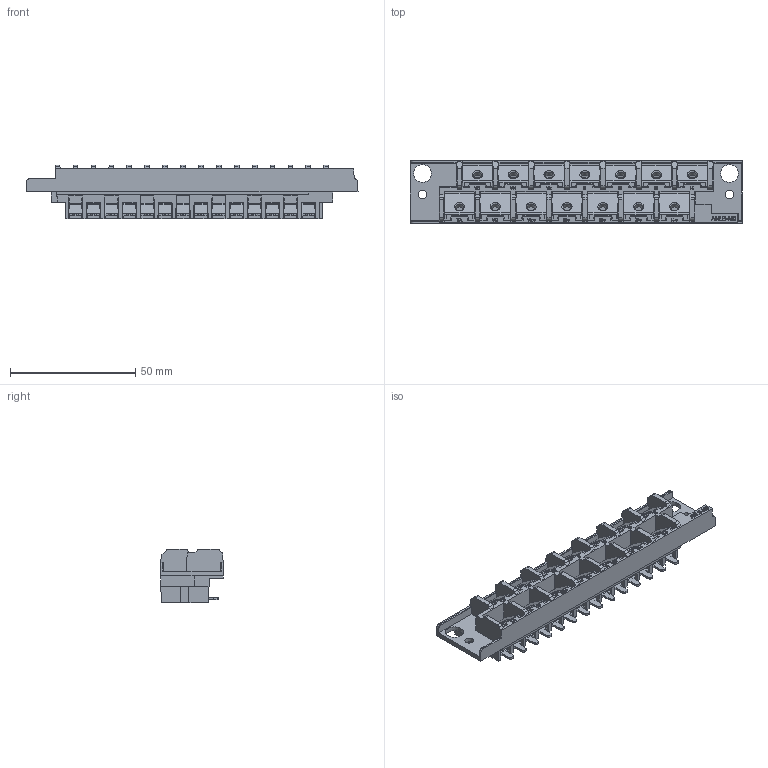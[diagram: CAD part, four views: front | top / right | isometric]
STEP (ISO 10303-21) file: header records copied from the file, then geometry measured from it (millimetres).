
FILE_DESCRIPTION(/* description */ (''),/* implementation_level */ '2;1');
FILE_NAME(/* name */ 'C:\Users\jondi\Desktop\FLEX 3D STP\M0.stp',/* time_stamp */ '2021-03-10T12:48:08-06:00',/* author */ ('jondi'),/* organization */ (''),/* preprocessor_version */ 'ST-DEVELOPER v17.2',/* originating_system */ 'Autodesk Inventor 2019',/* authorisation */ '');
FILE_SCHEMA (('AUTOMOTIVE_DESIGN { 1 0 10303 214 3 1 1 }'));
Length unit declared in the file: inch
Products named in the file (7): M0; 9579230120; 9579230001; CT Connector Housing - Dual Row; Basler CT Metal; Basler CT Metal4; 9579230014
Assembly tree (18 placements, depth 4):
  M0
    9579230120
      9579230001
        CT Connector Housing - Dual Row
      Basler CT Metal  x7
      Basler CT Metal4  x7
    9579230014
Bounding box: 132.55 x 24.98 x 21.46 mm (x, y, z)
Volume: 20013 mm3; surface area: 32506.3 mm2
Topology: 55 solids, 55 shells, 1946 faces, 5231 edges, 3375 vertices
Faces by surface type: plane 1512, cylinder 267, bspline 107, cone 32, torus 28
Full cylindrical faces by diameter (mm): 0.762 x5, 3.302 x14, 4.369 x14
Entity records: 40667 total; most frequent: CARTESIAN_POINT 8445, ORIENTED_EDGE 6958, DIRECTION 5988, EDGE_CURVE 3479, LINE 2940, VECTOR 2940, VERTEX_POINT 2259, AXIS2_PLACEMENT_3D 1524
